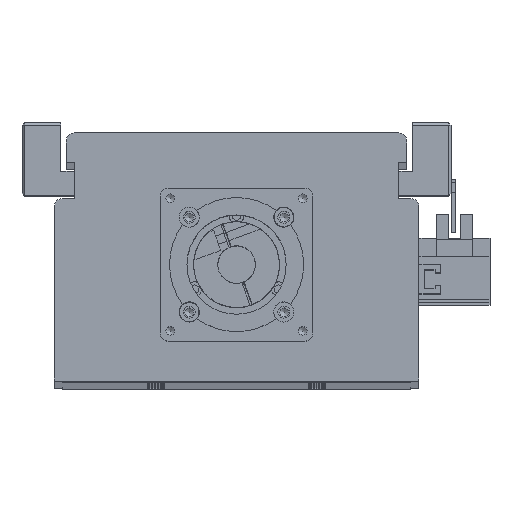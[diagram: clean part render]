
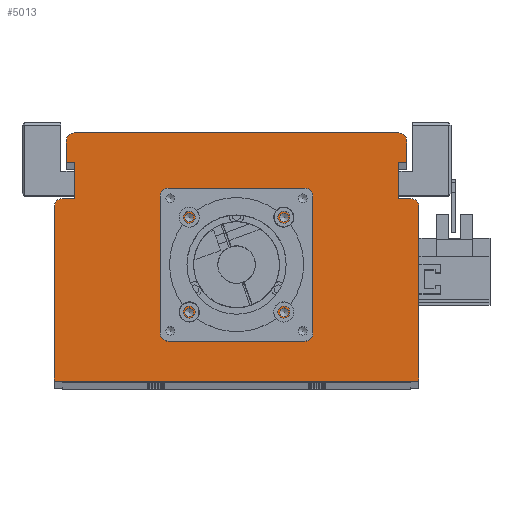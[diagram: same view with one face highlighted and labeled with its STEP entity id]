
A CAD part, top view. The second image highlights one B-rep face of the part: STEP entity #5013.
In plain terms, the highlighted planar face has unit normal (0, 0, 1).
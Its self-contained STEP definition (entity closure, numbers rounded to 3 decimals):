
#3571=CARTESIAN_POINT('',(19.321,61.5,1495.));
#3572=VERTEX_POINT('',#3571);
#3573=CARTESIAN_POINT('',(17.7,61.5,1495.));
#3574=DIRECTION('',(0.0,0.0,-1.0));
#3575=DIRECTION('',(1.0,0.0,0.0));
#3576=AXIS2_PLACEMENT_3D('',#3573,#3574,#3575);
#3577=CIRCLE('',#3576,1.621);
#3578=EDGE_CURVE('',#3572,#3572,#3577,.T.);
#3650=CARTESIAN_POINT('',(19.321,26.1,1495.));
#3651=VERTEX_POINT('',#3650);
#3652=CARTESIAN_POINT('',(17.7,26.1,1495.));
#3653=DIRECTION('',(0.0,0.0,-1.0));
#3654=DIRECTION('',(1.0,0.0,0.0));
#3655=AXIS2_PLACEMENT_3D('',#3652,#3653,#3654);
#3656=CIRCLE('',#3655,1.621);
#3657=EDGE_CURVE('',#3651,#3651,#3656,.T.);
#3729=CARTESIAN_POINT('',(-16.079,26.1,1495.));
#3730=VERTEX_POINT('',#3729);
#3731=CARTESIAN_POINT('',(-17.7,26.1,1495.));
#3732=DIRECTION('',(0.0,0.0,-1.0));
#3733=DIRECTION('',(1.0,0.0,0.0));
#3734=AXIS2_PLACEMENT_3D('',#3731,#3732,#3733);
#3735=CIRCLE('',#3734,1.621);
#3736=EDGE_CURVE('',#3730,#3730,#3735,.T.);
#3808=CARTESIAN_POINT('',(-16.079,61.5,1495.));
#3809=VERTEX_POINT('',#3808);
#3810=CARTESIAN_POINT('',(-17.7,61.5,1495.));
#3811=DIRECTION('',(0.0,0.0,-1.0));
#3812=DIRECTION('',(1.0,0.0,0.0));
#3813=AXIS2_PLACEMENT_3D('',#3810,#3811,#3812);
#3814=CIRCLE('',#3813,1.621);
#3815=EDGE_CURVE('',#3809,#3809,#3814,.T.);
#3849=CARTESIAN_POINT('',(26.5,43.8,1495.));
#3850=VERTEX_POINT('',#3849);
#3851=CARTESIAN_POINT('',(24.5,43.8,1495.));
#3852=DIRECTION('',(0.0,0.0,-1.0));
#3853=DIRECTION('',(1.0,0.0,0.0));
#3854=AXIS2_PLACEMENT_3D('',#3851,#3852,#3853);
#3855=CIRCLE('',#3854,2.0);
#3856=EDGE_CURVE('',#3850,#3850,#3855,.T.);
#3898=CARTESIAN_POINT('',(-22.5,43.8,1495.));
#3899=VERTEX_POINT('',#3898);
#3900=CARTESIAN_POINT('',(-24.5,43.8,1495.));
#3901=DIRECTION('',(0.0,0.0,-1.0));
#3902=DIRECTION('',(1.0,0.0,0.0));
#3903=AXIS2_PLACEMENT_3D('',#3900,#3901,#3902);
#3904=CIRCLE('',#3903,2.0);
#3905=EDGE_CURVE('',#3899,#3899,#3904,.T.);
#4829=CARTESIAN_POINT('',(21.05,43.8,1495.));
#4830=VERTEX_POINT('',#4829);
#4831=CARTESIAN_POINT('',(0.0,43.8,1495.));
#4832=DIRECTION('',(0.0,0.0,-1.0));
#4833=DIRECTION('',(-1.0,0.0,0.0));
#4834=AXIS2_PLACEMENT_3D('',#4831,#4832,#4833);
#4835=CIRCLE('',#4834,21.05);
#4836=EDGE_CURVE('',#4830,#4830,#4835,.T.);
#4853=CARTESIAN_POINT('',(0.,29.533,1495.));
#4854=DIRECTION('',(0.0,0.0,1.0));
#4855=DIRECTION('',(1.0,0.0,0.0));
#4856=AXIS2_PLACEMENT_3D('',#4853,#4854,#4855);
#4857=PLANE('',#4856);
#4858=CARTESIAN_POINT('',(-65.,68.5,1495.));
#4859=VERTEX_POINT('',#4858);
#4860=CARTESIAN_POINT('',(-60.5,68.5,1495.0));
#4861=VERTEX_POINT('',#4860);
#4862=CARTESIAN_POINT('',(-65.,68.5,1495.));
#4863=DIRECTION('',(1.0,0.0,0.0));
#4864=VECTOR('',#4863,4.5);
#4865=LINE('',#4862,#4864);
#4866=EDGE_CURVE('',#4859,#4861,#4865,.T.);
#4867=ORIENTED_EDGE('',*,*,#4866,.F.);
#4868=CARTESIAN_POINT('',(-68.,65.5,1495.));
#4869=VERTEX_POINT('',#4868);
#4870=CARTESIAN_POINT('',(-65.,65.5,1495.0));
#4871=DIRECTION('',(0.0,0.0,-1.0));
#4872=DIRECTION('',(0.0,1.0,0.0));
#4873=AXIS2_PLACEMENT_3D('',#4870,#4871,#4872);
#4874=CIRCLE('',#4873,3.);
#4875=EDGE_CURVE('',#4869,#4859,#4874,.T.);
#4876=ORIENTED_EDGE('',*,*,#4875,.F.);
#4877=CARTESIAN_POINT('',(-68.0,0.5,1495.));
#4878=VERTEX_POINT('',#4877);
#4879=CARTESIAN_POINT('',(-68.0,0.5,1495.));
#4880=DIRECTION('',(0.0,1.0,0.0));
#4881=VECTOR('',#4880,65.0);
#4882=LINE('',#4879,#4881);
#4883=EDGE_CURVE('',#4878,#4869,#4882,.T.);
#4884=ORIENTED_EDGE('',*,*,#4883,.F.);
#4885=CARTESIAN_POINT('',(68.0,0.5,1495.));
#4886=VERTEX_POINT('',#4885);
#4887=CARTESIAN_POINT('',(68.0,0.5,1495.));
#4888=DIRECTION('',(-1.0,0.0,0.0));
#4889=VECTOR('',#4888,136.0);
#4890=LINE('',#4887,#4889);
#4891=EDGE_CURVE('',#4886,#4878,#4890,.T.);
#4892=ORIENTED_EDGE('',*,*,#4891,.F.);
#4893=CARTESIAN_POINT('',(68.0,65.5,1495.));
#4894=VERTEX_POINT('',#4893);
#4895=CARTESIAN_POINT('',(68.0,65.5,1495.));
#4896=DIRECTION('',(0.0,-1.0,0.0));
#4897=VECTOR('',#4896,65.0);
#4898=LINE('',#4895,#4897);
#4899=EDGE_CURVE('',#4894,#4886,#4898,.T.);
#4900=ORIENTED_EDGE('',*,*,#4899,.F.);
#4901=CARTESIAN_POINT('',(65.,68.5,1495.));
#4902=VERTEX_POINT('',#4901);
#4903=CARTESIAN_POINT('',(65.,65.5,1495.0));
#4904=DIRECTION('',(0.0,0.0,-1.0));
#4905=DIRECTION('',(1.0,0.0,0.0));
#4906=AXIS2_PLACEMENT_3D('',#4903,#4904,#4905);
#4907=CIRCLE('',#4906,3.);
#4908=EDGE_CURVE('',#4902,#4894,#4907,.T.);
#4909=ORIENTED_EDGE('',*,*,#4908,.F.);
#4910=CARTESIAN_POINT('',(60.5,68.5,1495.0));
#4911=VERTEX_POINT('',#4910);
#4912=CARTESIAN_POINT('',(60.5,68.5,1495.0));
#4913=DIRECTION('',(1.0,0.0,0.0));
#4914=VECTOR('',#4913,4.5);
#4915=LINE('',#4912,#4914);
#4916=EDGE_CURVE('',#4911,#4902,#4915,.T.);
#4917=ORIENTED_EDGE('',*,*,#4916,.F.);
#4918=CARTESIAN_POINT('',(60.5,82.,1495.0));
#4919=VERTEX_POINT('',#4918);
#4920=CARTESIAN_POINT('',(60.5,82.,1495.0));
#4921=DIRECTION('',(0.0,-1.0,0.0));
#4922=VECTOR('',#4921,13.5);
#4923=LINE('',#4920,#4922);
#4924=EDGE_CURVE('',#4919,#4911,#4923,.T.);
#4925=ORIENTED_EDGE('',*,*,#4924,.F.);
#4926=CARTESIAN_POINT('',(63.5,82.,1495.0));
#4927=VERTEX_POINT('',#4926);
#4928=CARTESIAN_POINT('',(63.5,82.,1495.0));
#4929=DIRECTION('',(-1.0,0.0,0.0));
#4930=VECTOR('',#4929,3.0);
#4931=LINE('',#4928,#4930);
#4932=EDGE_CURVE('',#4927,#4919,#4931,.T.);
#4933=ORIENTED_EDGE('',*,*,#4932,.F.);
#4934=CARTESIAN_POINT('',(63.5,90.0,1495.0));
#4935=VERTEX_POINT('',#4934);
#4936=CARTESIAN_POINT('',(63.5,90.0,1495.0));
#4937=DIRECTION('',(0.0,-1.0,0.0));
#4938=VECTOR('',#4937,8.);
#4939=LINE('',#4936,#4938);
#4940=EDGE_CURVE('',#4935,#4927,#4939,.T.);
#4941=ORIENTED_EDGE('',*,*,#4940,.F.);
#4942=CARTESIAN_POINT('',(60.5,93.,1495.0));
#4943=VERTEX_POINT('',#4942);
#4944=CARTESIAN_POINT('',(60.5,90.0,1495.0));
#4945=DIRECTION('',(0.0,0.0,-1.0));
#4946=DIRECTION('',(1.0,0.0,0.0));
#4947=AXIS2_PLACEMENT_3D('',#4944,#4945,#4946);
#4948=CIRCLE('',#4947,3.);
#4949=EDGE_CURVE('',#4943,#4935,#4948,.T.);
#4950=ORIENTED_EDGE('',*,*,#4949,.F.);
#4951=CARTESIAN_POINT('',(-60.5,93.0,1495.0));
#4952=VERTEX_POINT('',#4951);
#4953=CARTESIAN_POINT('',(-60.5,93.0,1495.0));
#4954=DIRECTION('',(1.0,0.0,0.0));
#4955=VECTOR('',#4954,121.0);
#4956=LINE('',#4953,#4955);
#4957=EDGE_CURVE('',#4952,#4943,#4956,.T.);
#4958=ORIENTED_EDGE('',*,*,#4957,.F.);
#4959=CARTESIAN_POINT('',(-63.5,90.0,1495.0));
#4960=VERTEX_POINT('',#4959);
#4961=CARTESIAN_POINT('',(-60.5,90.0,1495.0));
#4962=DIRECTION('',(0.0,0.0,-1.0));
#4963=DIRECTION('',(0.0,1.0,0.0));
#4964=AXIS2_PLACEMENT_3D('',#4961,#4962,#4963);
#4965=CIRCLE('',#4964,3.);
#4966=EDGE_CURVE('',#4960,#4952,#4965,.T.);
#4967=ORIENTED_EDGE('',*,*,#4966,.F.);
#4968=CARTESIAN_POINT('',(-63.5,82.,1495.0));
#4969=VERTEX_POINT('',#4968);
#4970=CARTESIAN_POINT('',(-63.5,82.,1495.0));
#4971=DIRECTION('',(0.0,1.0,0.0));
#4972=VECTOR('',#4971,8.);
#4973=LINE('',#4970,#4972);
#4974=EDGE_CURVE('',#4969,#4960,#4973,.T.);
#4975=ORIENTED_EDGE('',*,*,#4974,.F.);
#4976=CARTESIAN_POINT('',(-60.5,82.,1495.0));
#4977=VERTEX_POINT('',#4976);
#4978=CARTESIAN_POINT('',(-60.5,82.,1495.0));
#4979=DIRECTION('',(-1.0,0.0,0.0));
#4980=VECTOR('',#4979,3.);
#4981=LINE('',#4978,#4980);
#4982=EDGE_CURVE('',#4977,#4969,#4981,.T.);
#4983=ORIENTED_EDGE('',*,*,#4982,.F.);
#4984=CARTESIAN_POINT('',(-60.5,68.5,1495.0));
#4985=DIRECTION('',(0.0,1.0,0.0));
#4986=VECTOR('',#4985,13.5);
#4987=LINE('',#4984,#4986);
#4988=EDGE_CURVE('',#4861,#4977,#4987,.T.);
#4989=ORIENTED_EDGE('',*,*,#4988,.F.);
#4990=EDGE_LOOP('',(#4867,#4876,#4884,#4892,#4900,#4909,#4917,#4925,#4933,#4941,#4950,#4958,#4967,#4975,#4983,#4989));
#4991=FACE_OUTER_BOUND('',#4990,.T.);
#4992=ORIENTED_EDGE('',*,*,#3578,.T.);
#4993=EDGE_LOOP('',(#4992));
#4994=FACE_BOUND('',#4993,.T.);
#4995=ORIENTED_EDGE('',*,*,#3657,.T.);
#4996=EDGE_LOOP('',(#4995));
#4997=FACE_BOUND('',#4996,.T.);
#4998=ORIENTED_EDGE('',*,*,#3736,.T.);
#4999=EDGE_LOOP('',(#4998));
#5000=FACE_BOUND('',#4999,.T.);
#5001=ORIENTED_EDGE('',*,*,#3815,.T.);
#5002=EDGE_LOOP('',(#5001));
#5003=FACE_BOUND('',#5002,.T.);
#5004=ORIENTED_EDGE('',*,*,#3856,.T.);
#5005=EDGE_LOOP('',(#5004));
#5006=FACE_BOUND('',#5005,.T.);
#5007=ORIENTED_EDGE('',*,*,#3905,.T.);
#5008=EDGE_LOOP('',(#5007));
#5009=FACE_BOUND('',#5008,.T.);
#5010=ORIENTED_EDGE('',*,*,#4836,.T.);
#5011=EDGE_LOOP('',(#5010));
#5012=FACE_BOUND('',#5011,.T.);
#5013=ADVANCED_FACE('',(#4991,#4994,#4997,#5000,#5003,#5006,#5009,#5012),#4857,.T.);
